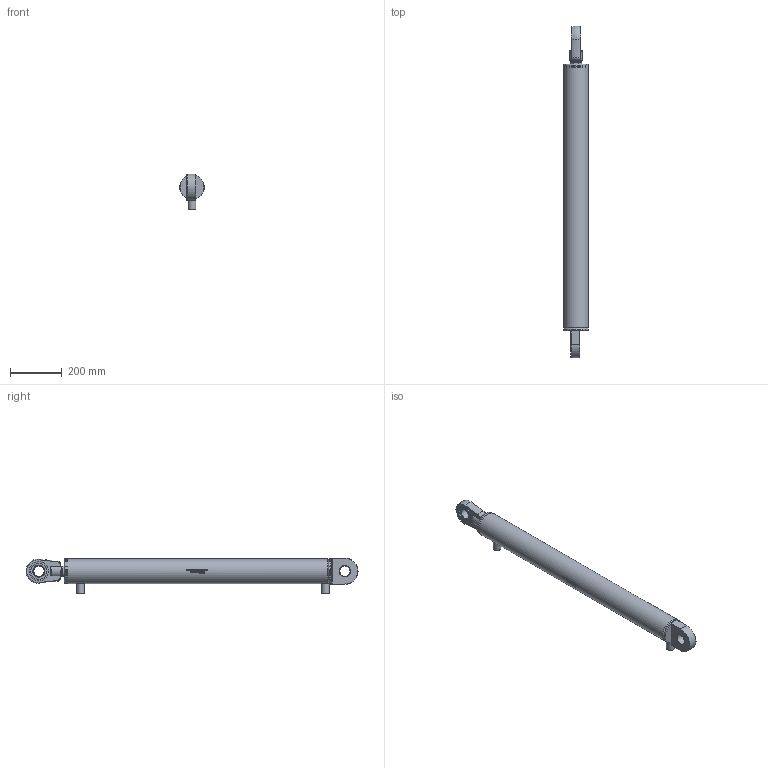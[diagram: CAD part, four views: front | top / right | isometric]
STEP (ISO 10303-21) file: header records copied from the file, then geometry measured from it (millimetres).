
FILE_DESCRIPTION(/* description */ (''),/* implementation_level */ '2;1');
FILE_NAME(/* name */ 'HC_A_80_45_900_AMB_WEB.step',/* time_stamp */ '2023-07-25T14:46:03+03:00',/* author */ (''),/* organization */ (''),/* preprocessor_version */ 'ST-DEVELOPER v20',/* originating_system */ 'Autodesk Translation Framework v12.9.0.99',/* authorisation */ '');
FILE_SCHEMA (('AUTOMOTIVE_DESIGN { 1 0 10303 214 3 1 1 }'));
Length unit declared in the file: millimetre
Products named in the file (16): HC_A_80_45_50_ÖAMB_WEB; Manşon_1_2; RMK_40_101; TAK_80_95; Bileşen1; RMV_40; dgihl_40_do; 45_K_MIL_WEB; Bileşen1_1; HCA_A_80_95_BORU; 80_100_Boru; TDK_80_45; TDK_80_45_1; K06-45X55_6X5_3X7; K22-045_55_10; KO-77X3
Assembly tree (16 placements, depth 3):
  HC_A_80_45_50_ÖAMB_WEB
    Manşon_1_2  x2
    RMK_40_101
    TAK_80_95
      Bileşen1
    RMV_40
      dgihl_40_do
    45_K_MIL_WEB
      Bileşen1_1
    HCA_A_80_95_BORU
      80_100_Boru
    TDK_80_45
      TDK_80_45_1
      K06-45X55_6X5_3X7
      K22-045_55_10
      KO-77X3
Bounding box: 95 x 1278.16 x 138 mm (x, y, z)
Volume: 3243378.2 mm3; surface area: 745076.5 mm2
Topology: 11 solids, 11 shells, 761 faces, 1969 edges, 1292 vertices
Faces by surface type: bspline 369, plane 245, cylinder 76, cone 49, torus 13, sphere 9
Full cylindrical faces by diameter (mm): 8.526 x1, 10 x2, 19 x2, 30 x2, 32.822 x1, 33.376 x1, 34.85 x1, 40 x2, 45 x3, 45.571 x1, 46.6 x1, 47.6 x1, 49 x1, 54.429 x1, 55 x2, 55.6 x1, 62 x2, 73 x2, 77 x1, 80 x2, 81 x3, 83 x1, 83.022 x1, 84.822 x1, 87 x1, 95 x3
Entity records: 35271 total; most frequent: CARTESIAN_POINT 18721, ORIENTED_EDGE 3902, DIRECTION 2308, EDGE_CURVE 1951, VERTEX_POINT 1282, LINE 882, VECTOR 882, EDGE_LOOP 841
